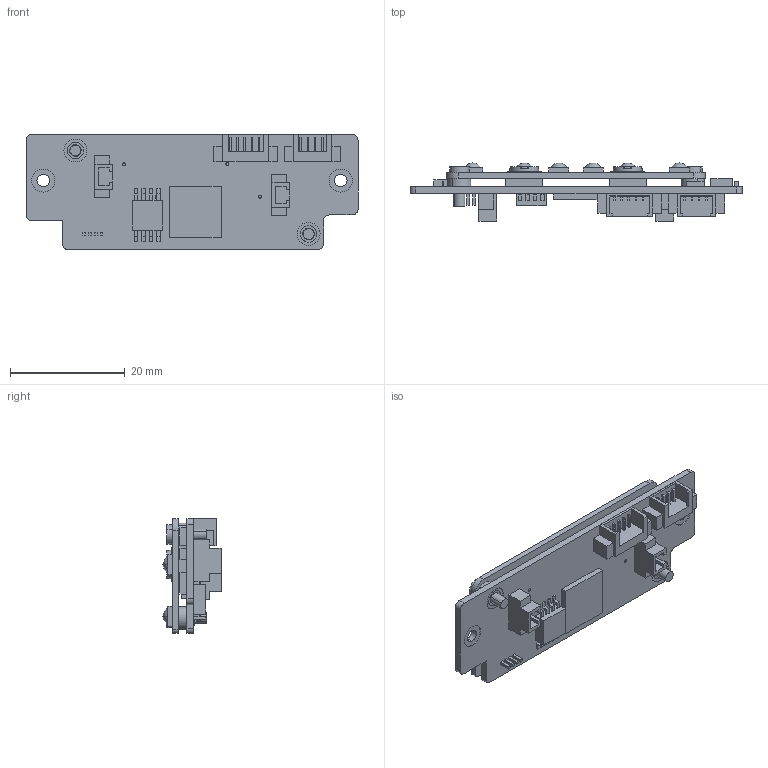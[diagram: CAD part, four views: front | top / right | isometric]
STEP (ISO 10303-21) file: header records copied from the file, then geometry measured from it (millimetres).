
FILE_DESCRIPTION((''),'2;1');
FILE_NAME('FM888__ASM','2024-12-16T20:06:23',('mayn'),(''),'CREO PARAMETRIC BY PTC INC, 2018050','CREO PARAMETRIC BY PTC INC, 2018050','');
FILE_SCHEMA(('CONFIG_CONTROL_DESIGN'));
Length unit declared in the file: millimetre
Products named in the file (15): SMT_M2X4-20001; 3535_42MIL_850NM_120; FM888_LED_V101; _000; 2-20290; _147250; _FLASH_-_00; _2P_1_25MM__-_-0001; 2-125430; 2-181960; FM888_00_ASM; JTZ036-2145; M2-600; FM8880001_ASM; FM888__ASM
Assembly tree (24 placements, depth 4):
  FM888__ASM
    FM8880001_ASM
      SMT_M2X4-20001  x2
      3535_42MIL_850NM_120  x8
      FM888_LED_V101
      FM888_00_ASM
        _000
        2-20290
        _147250
        _FLASH_-_00
        _2P_1_25MM__-_-0001
        2-125430
        2-181960
      JTZ036-2145
      M2-600  x2
    JTZ036-2145
Bounding box: 57.8 x 10.12 x 20 mm (x, y, z)
Volume: 2999.5 mm3; surface area: 6241.2 mm2
Topology: 22 solids, 22 shells, 537 faces, 1295 edges, 866 vertices
Faces by surface type: plane 402, cylinder 113, sphere 18, cone 4
Entity records: 13251 total; most frequent: CARTESIAN_POINT 2276, DIRECTION 2269, ORIENTED_EDGE 2126, EDGE_CURVE 1063, VECTOR 865, LINE 865, VERTEX_POINT 709, AXIS2_PLACEMENT_3D 702
